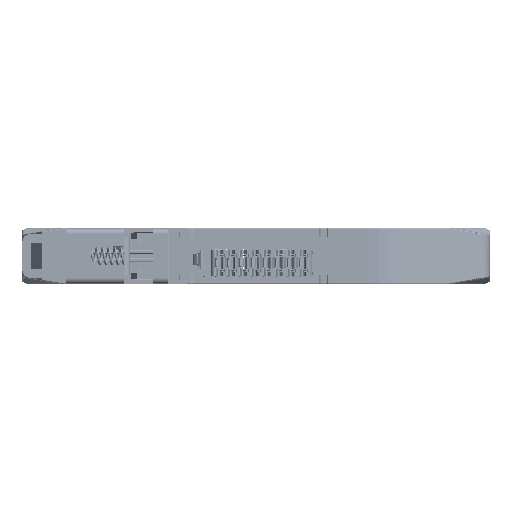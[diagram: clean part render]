
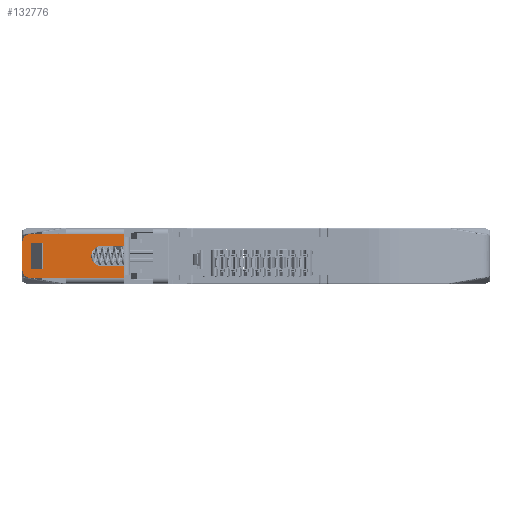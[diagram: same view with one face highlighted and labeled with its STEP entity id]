
A CAD part, front view. The second image highlights one B-rep face of the part: STEP entity #132776.
In plain terms, the highlighted planar face has unit normal (0, -1, 0) as drawn and (0, 0, -1) by its records, which use the part's own axes.
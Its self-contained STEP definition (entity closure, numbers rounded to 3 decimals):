
#130997=DIRECTION('',(-1.,0.,0.));
#130998=VECTOR('',#130997,2.6);
#130999=CARTESIAN_POINT('',(4.4,8.7,0.));
#131000=LINE('',#130999,#130998);
#131001=DIRECTION('',(0.,1.,0.));
#131002=VECTOR('',#131001,5.6);
#131003=CARTESIAN_POINT('',(4.4,3.1,0.));
#131004=LINE('',#131003,#131002);
#131005=DIRECTION('',(1.,0.,0.));
#131006=VECTOR('',#131005,2.6);
#131007=CARTESIAN_POINT('',(1.8,3.1,0.));
#131008=LINE('',#131007,#131006);
#131009=DIRECTION('',(0.,-1.,0.));
#131010=VECTOR('',#131009,5.6);
#131011=CARTESIAN_POINT('',(1.8,8.7,0.));
#131012=LINE('',#131011,#131010);
#131021=DIRECTION('',(0.,1.,0.));
#131022=VECTOR('',#131021,0.15);
#131023=CARTESIAN_POINT('',(21.7,1.2,0.));
#131024=LINE('',#131023,#131022);
#131025=DIRECTION('',(1.,0.,0.));
#131026=VECTOR('',#131025,4.8);
#131027=CARTESIAN_POINT('',(16.9,3.7,0.));
#131028=LINE('',#131027,#131026);
#131029=CARTESIAN_POINT('',(16.9,5.9,0.));
#131030=DIRECTION('',(0.,0.,1.));
#131031=DIRECTION('',(0.,1.,0.));
#131032=AXIS2_PLACEMENT_3D('',#131029,#131030,#131031);
#131034=DIRECTION('',(-1.,0.,0.));
#131035=VECTOR('',#131034,4.8);
#131036=CARTESIAN_POINT('',(21.7,8.1,0.));
#131037=LINE('',#131036,#131035);
#131038=DIRECTION('',(0.,-1.,0.));
#131039=VECTOR('',#131038,0.15);
#131040=CARTESIAN_POINT('',(21.7,10.6,0.));
#131041=LINE('',#131040,#131039);
#131042=DIRECTION('',(0.,-1.,0.));
#131043=VECTOR('',#131042,0.05);
#131044=CARTESIAN_POINT('',(9.4,10.6,0.));
#131045=LINE('',#131044,#131043);
#131046=DIRECTION('',(-1.,0.,0.));
#131047=VECTOR('',#131046,7.9);
#131048=CARTESIAN_POINT('',(9.4,10.55,0.));
#131049=LINE('',#131048,#131047);
#131050=CARTESIAN_POINT('',(1.5,9.05,0.));
#131051=DIRECTION('',(0.,0.,1.));
#131052=DIRECTION('',(0.,1.,0.));
#131053=AXIS2_PLACEMENT_3D('',#131050,#131051,#131052);
#131055=DIRECTION('',(0.,-1.,0.));
#131056=VECTOR('',#131055,6.3);
#131057=CARTESIAN_POINT('',(0.,9.05,0.));
#131058=LINE('',#131057,#131056);
#131059=CARTESIAN_POINT('',(1.5,2.75,0.));
#131060=DIRECTION('',(0.,0.,1.));
#131061=DIRECTION('',(-1.,0.,0.));
#131062=AXIS2_PLACEMENT_3D('',#131059,#131060,#131061);
#131064=DIRECTION('',(1.,0.,0.));
#131065=VECTOR('',#131064,7.9);
#131066=CARTESIAN_POINT('',(1.5,1.25,0.));
#131067=LINE('',#131066,#131065);
#131068=DIRECTION('',(0.,-1.,0.));
#131069=VECTOR('',#131068,0.05);
#131070=CARTESIAN_POINT('',(9.4,1.25,0.));
#131071=LINE('',#131070,#131069);
#131296=DIRECTION('',(1.,0.,0.));
#131297=VECTOR('',#131296,12.3);
#131298=CARTESIAN_POINT('',(9.4,10.6,0.));
#131299=LINE('',#131298,#131297);
#131317=DIRECTION('',(1.,0.,0.));
#131318=VECTOR('',#131317,12.3);
#131319=CARTESIAN_POINT('',(9.4,1.2,0.));
#131320=LINE('',#131319,#131318);
#131782=DIRECTION('',(0.,-1.,0.));
#131783=VECTOR('',#131782,2.35);
#131784=CARTESIAN_POINT('',(21.7,3.7,0.));
#131785=LINE('',#131784,#131783);
#131800=DIRECTION('',(0.,-1.,0.));
#131801=VECTOR('',#131800,2.35);
#131802=CARTESIAN_POINT('',(21.7,10.45,0.));
#131803=LINE('',#131802,#131801);
#132155=CARTESIAN_POINT('',(0.,2.75,0.));
#132156=CARTESIAN_POINT('',(1.5,1.25,0.));
#132157=VERTEX_POINT('',#132155);
#132158=VERTEX_POINT('',#132156);
#132159=CARTESIAN_POINT('',(9.4,1.25,0.));
#132160=VERTEX_POINT('',#132159);
#132161=CARTESIAN_POINT('',(9.4,10.55,0.));
#132162=CARTESIAN_POINT('',(1.5,10.55,0.));
#132163=VERTEX_POINT('',#132161);
#132164=VERTEX_POINT('',#132162);
#132165=CARTESIAN_POINT('',(0.,9.05,0.));
#132166=VERTEX_POINT('',#132165);
#132179=CARTESIAN_POINT('',(9.4,1.2,0.));
#132180=VERTEX_POINT('',#132179);
#132364=CARTESIAN_POINT('',(9.4,10.6,0.));
#132366=VERTEX_POINT('',#132364);
#132395=CARTESIAN_POINT('',(4.4,8.7,0.));
#132396=CARTESIAN_POINT('',(1.8,8.7,0.));
#132397=VERTEX_POINT('',#132395);
#132398=VERTEX_POINT('',#132396);
#132399=CARTESIAN_POINT('',(1.8,3.1,0.));
#132400=VERTEX_POINT('',#132399);
#132401=CARTESIAN_POINT('',(4.4,3.1,0.));
#132402=VERTEX_POINT('',#132401);
#132403=CARTESIAN_POINT('',(21.7,8.1,0.));
#132404=CARTESIAN_POINT('',(16.9,8.1,0.));
#132405=VERTEX_POINT('',#132403);
#132406=VERTEX_POINT('',#132404);
#132407=CARTESIAN_POINT('',(16.9,3.7,0.));
#132408=VERTEX_POINT('',#132407);
#132409=CARTESIAN_POINT('',(21.7,3.7,0.));
#132410=VERTEX_POINT('',#132409);
#132443=CARTESIAN_POINT('',(21.7,1.2,0.));
#132444=VERTEX_POINT('',#132443);
#132455=CARTESIAN_POINT('',(21.7,10.6,0.));
#132456=VERTEX_POINT('',#132455);
#132491=CARTESIAN_POINT('',(21.7,1.35,0.));
#132492=VERTEX_POINT('',#132491);
#132493=CARTESIAN_POINT('',(21.7,10.45,0.));
#132494=VERTEX_POINT('',#132493);
#132727=CARTESIAN_POINT('',(0.,0.,0.));
#132728=DIRECTION('',(0.,0.,1.));
#132729=DIRECTION('',(1.,0.,0.));
#132730=AXIS2_PLACEMENT_3D('',#132727,#132728,#132729);
#132731=PLANE('',#132730);
#132733=ORIENTED_EDGE('',*,*,#132732,.T.);
#132735=ORIENTED_EDGE('',*,*,#132734,.F.);
#132737=ORIENTED_EDGE('',*,*,#132736,.F.);
#132739=ORIENTED_EDGE('',*,*,#132738,.F.);
#132741=ORIENTED_EDGE('',*,*,#132740,.F.);
#132743=ORIENTED_EDGE('',*,*,#132742,.F.);
#132745=ORIENTED_EDGE('',*,*,#132744,.F.);
#132747=ORIENTED_EDGE('',*,*,#132746,.F.);
#132749=ORIENTED_EDGE('',*,*,#132748,.T.);
#132751=ORIENTED_EDGE('',*,*,#132750,.T.);
#132753=ORIENTED_EDGE('',*,*,#132752,.T.);
#132755=ORIENTED_EDGE('',*,*,#132754,.T.);
#132757=ORIENTED_EDGE('',*,*,#132756,.T.);
#132759=ORIENTED_EDGE('',*,*,#132758,.T.);
#132761=ORIENTED_EDGE('',*,*,#132760,.T.);
#132763=ORIENTED_EDGE('',*,*,#132762,.T.);
#132764=EDGE_LOOP('',(#132733,#132735,#132737,#132739,#132741,#132743,#132745,
#132747,#132749,#132751,#132753,#132755,#132757,#132759,#132761,#132763));
#132765=FACE_OUTER_BOUND('',#132764,.F.);
#132767=ORIENTED_EDGE('',*,*,#132766,.F.);
#132769=ORIENTED_EDGE('',*,*,#132768,.F.);
#132771=ORIENTED_EDGE('',*,*,#132770,.F.);
#132773=ORIENTED_EDGE('',*,*,#132772,.F.);
#132774=EDGE_LOOP('',(#132767,#132769,#132771,#132773));
#132775=FACE_BOUND('',#132774,.F.);
#132776=ADVANCED_FACE('',(#132765,#132775),#132731,.F.);
#131033=CIRCLE('',#131032,2.2);
#131054=CIRCLE('',#131053,1.5);
#131063=CIRCLE('',#131062,1.5);
#132732=EDGE_CURVE('',#132444,#132492,#131024,.T.);
#132734=EDGE_CURVE('',#132410,#132492,#131785,.T.);
#132736=EDGE_CURVE('',#132408,#132410,#131028,.T.);
#132738=EDGE_CURVE('',#132406,#132408,#131033,.T.);
#132740=EDGE_CURVE('',#132405,#132406,#131037,.T.);
#132742=EDGE_CURVE('',#132494,#132405,#131803,.T.);
#132744=EDGE_CURVE('',#132456,#132494,#131041,.T.);
#132746=EDGE_CURVE('',#132366,#132456,#131299,.T.);
#132748=EDGE_CURVE('',#132366,#132163,#131045,.T.);
#132750=EDGE_CURVE('',#132163,#132164,#131049,.T.);
#132752=EDGE_CURVE('',#132164,#132166,#131054,.T.);
#132754=EDGE_CURVE('',#132166,#132157,#131058,.T.);
#132756=EDGE_CURVE('',#132157,#132158,#131063,.T.);
#132758=EDGE_CURVE('',#132158,#132160,#131067,.T.);
#132760=EDGE_CURVE('',#132160,#132180,#131071,.T.);
#132762=EDGE_CURVE('',#132180,#132444,#131320,.T.);
#132766=EDGE_CURVE('',#132397,#132398,#131000,.T.);
#132768=EDGE_CURVE('',#132402,#132397,#131004,.T.);
#132770=EDGE_CURVE('',#132400,#132402,#131008,.T.);
#132772=EDGE_CURVE('',#132398,#132400,#131012,.T.);
